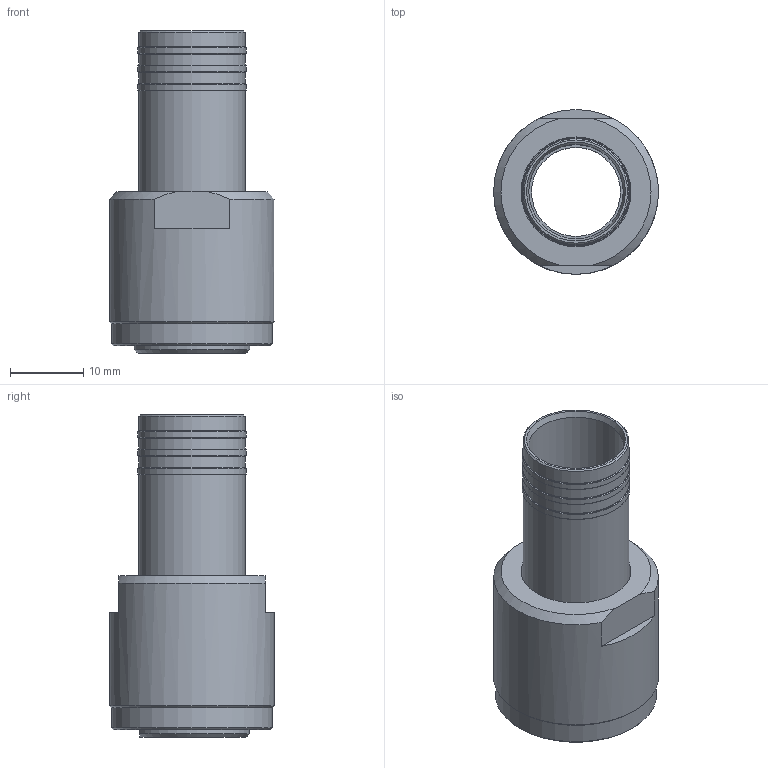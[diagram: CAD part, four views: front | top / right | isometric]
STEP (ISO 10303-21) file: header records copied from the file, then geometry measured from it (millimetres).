
FILE_DESCRIPTION (( 'STEP AP203' ), '1' );
FILE_NAME ('Cobalt 14 mm Termination Kit.STEP', '2022-09-30T18:52:24', ( '' ), ( '' ), 'SwSTEP 2.0', 'SolidWorks 2022', '' );
FILE_SCHEMA (( 'CONFIG_CONTROL_DESIGN' ));
Length unit declared in the file: millimetre
Products named in the file (4): O RING 015^ASSY, POTTED TERMINATION LARGE; Cobalt 14 mm Termination Kit; 00129; 00130
Assembly tree (3 placements, depth 2):
  Cobalt 14 mm Termination Kit
    00130
    O RING 015^ASSY, POTTED TERMINATION LARGE
    00129
Bounding box: 22.5 x 22.5 x 44.05 mm (x, y, z)
Volume: 4916.2 mm3; surface area: 7899.4 mm2
Topology: 3 solids, 3 shells, 67 faces, 132 edges, 82 vertices
Faces by surface type: plane 24, cylinder 19, cone 17, torus 4, bspline 3
Full cylindrical faces by diameter (mm): 12.16 x1, 12.56 x1, 12.9 x1, 14.06 x1, 14.5 x4, 14.8 x3, 15 x1, 16.6 x2, 20 x1, 22 x1, 22.5 x1
Entity records: 3339 total; most frequent: CARTESIAN_POINT 1695, DIRECTION 276, ORIENTED_EDGE 190, AXIS2_PLACEMENT_3D 130, EDGE_LOOP 116, EDGE_CURVE 95, FACE_OUTER_BOUND 86, VERTEX_POINT 79
